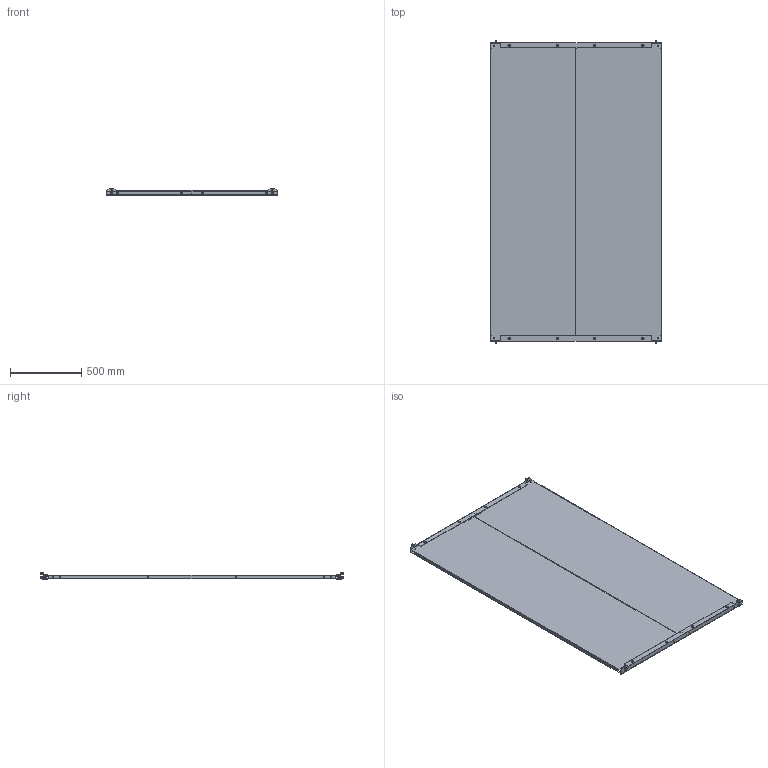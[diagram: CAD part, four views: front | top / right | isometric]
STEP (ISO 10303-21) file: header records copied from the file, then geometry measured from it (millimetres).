
FILE_DESCRIPTION(('Open CASCADE Model'),'2;1');
FILE_NAME('Open CASCADE Shape Model','2025-02-13T16:50:04',('Author'),( 'Open CASCADE'),'Open CASCADE STEP processor 7.8','Open CASCADE 7.8' ,'Unknown');
FILE_SCHEMA(('AUTOMOTIVE_DESIGN { 1 0 10303 214 1 1 1 1 }'));
Length unit declared in the file: millimetre
Products named in the file (14): Compound1; Compound2; Solid1; Solid2; Solid3; Solid4; Compound3; Solid5; Solid6; Solid7; Solid8; Solid9; Solid10; Solid11
Assembly tree (72 placements, depth 3):
  Compound1
    Compound2
      Solid1  x2
      Solid2  x2
      Solid3  x12
      Solid4  x12
    Compound3  x2
      Solid5
      Solid6
    Solid3  x4
    Solid7  x4
    Solid8  x8
    Solid9  x4
    Solid10  x8
    Solid11  x8
Bounding box: 1200 x 2126 x 55.3 mm (x, y, z)
Volume: 7882552.2 mm3; surface area: 6363847.2 mm2
Topology: 74 solids, 74 shells, 4332 faces, 11362 edges, 7154 vertices
Faces by surface type: plane 2088, cylinder 1212, cone 440, bspline 376, torus 200, sphere 16
Full cylindrical faces by diameter (mm): 5 x24, 6 x40, 6.5 x8, 6.8 x64, 8 x8, 8.3 x8, 8.4 x4, 9.5 x8, 10.1 x8, 10.44 x8, 10.5 x8, 11.57 x8, 12 x8, 12.65 x8, 16 x20, 16.55 x16
Entity records: 25786 total; most frequent: CARTESIAN_POINT 6836, ORIENTED_EDGE 3986, DIRECTION 3650, EDGE_CURVE 1993, VERTEX_POINT 1277, LINE 1276, VECTOR 1276, AXIS2_PLACEMENT_3D 1187
